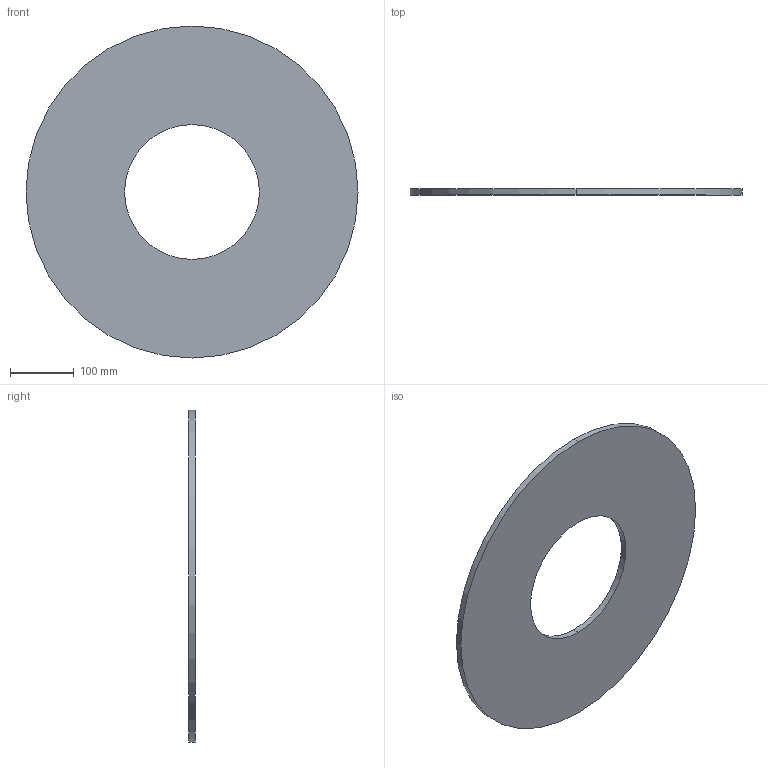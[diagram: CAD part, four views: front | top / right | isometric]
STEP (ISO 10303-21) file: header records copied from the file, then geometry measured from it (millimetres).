
FILE_DESCRIPTION (( 'STEP AP203' ), '1' );
FILE_NAME ('3D_R152_DN150_17305280.STEP', '2024-08-13T07:55:50', ( '' ), ( '' ), 'SwSTEP 2.0', 'SolidWorks 2024', '' );
FILE_SCHEMA (( 'CONFIG_CONTROL_DESIGN' ));
Length unit declared in the file: millimetre
Products named in the file (1): 3D_R152_DN150_17305280
Bounding box: 522 x 10 x 522 mm (x, y, z)
Volume: 1787095 mm3; surface area: 380478.3 mm2
Topology: 1 solids, 1 shells, 6 faces, 12 edges, 8 vertices
Faces by surface type: cylinder 4, plane 2
Entity records: 245 total; most frequent: DIRECTION 34, CARTESIAN_POINT 27, ORIENTED_EDGE 24, AXIS2_PLACEMENT_3D 15, EDGE_CURVE 12, PERSON_AND_ORGANIZATION 8, EDGE_LOOP 8, CIRCLE 8
